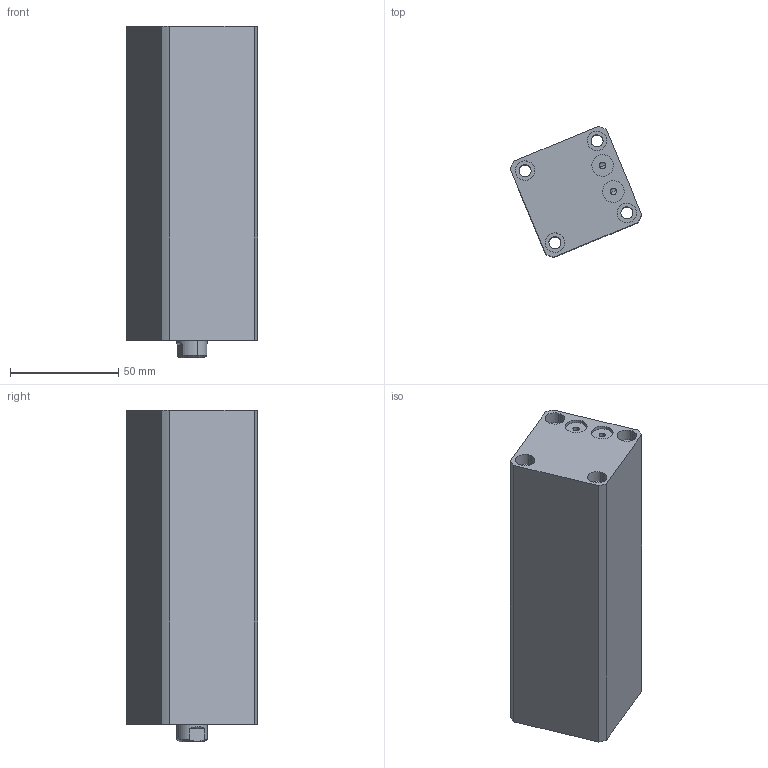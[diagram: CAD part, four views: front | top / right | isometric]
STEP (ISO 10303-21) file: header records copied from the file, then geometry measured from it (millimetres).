
FILE_DESCRIPTION (( 'STEP AP214' ), '1' );
FILE_NAME ('chtb-sdmb25x100n_asm.STEP', '2018-05-24T01:54:53', ( 'Windows' ), ( 'Microsoft' ), 'SwSTEP 2.0', 'SolidWorks 2015', '' );
FILE_SCHEMA (( 'AUTOMOTIVE_DESIGN' ));
Length unit declared in the file: millimetre
Products named in the file (4): CHTB-25QG; chtb-sdmb25x100n_asm; CHTB-SDMB25X100NHSG; CHTB-SDMB25X100NBT
Assembly tree (3 placements, depth 2):
  chtb-sdmb25x100n_asm
    CHTB-25QG
    CHTB-SDMB25X100NBT
    CHTB-SDMB25X100NHSG
Bounding box: 60.55 x 60.55 x 153 mm (x, y, z)
Volume: 279405.9 mm3; surface area: 68577.3 mm2
Topology: 3 solids, 3 shells, 142 faces, 379 edges, 257 vertices
Faces by surface type: cylinder 89, plane 34, bspline 10, cone 9
Entity records: 8024 total; most frequent: CARTESIAN_POINT 4397, ORIENTED_EDGE 746, DIRECTION 661, EDGE_CURVE 373, AXIS2_PLACEMENT_3D 272, VERTEX_POINT 257, EDGE_LOOP 180, ADVANCED_FACE 142
